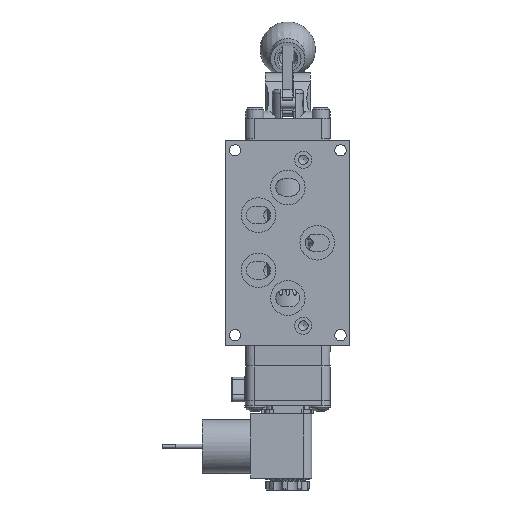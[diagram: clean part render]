
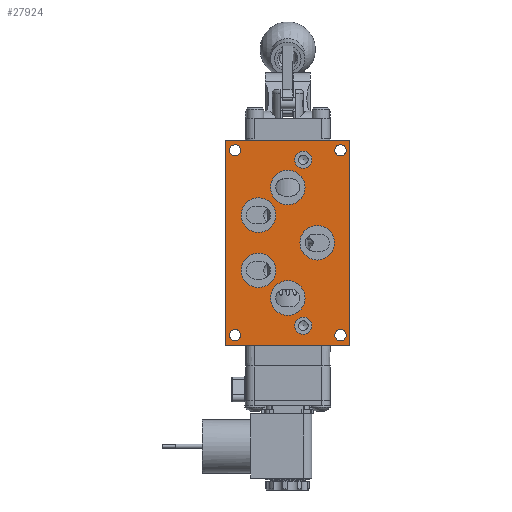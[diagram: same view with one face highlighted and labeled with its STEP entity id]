
A CAD part, front view. The second image highlights one B-rep face of the part: STEP entity #27924.
In plain terms, the highlighted planar face has unit normal (0, -1, 0).
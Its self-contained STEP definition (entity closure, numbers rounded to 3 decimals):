
#1037=FACE_BOUND('',#3829,.T.);
#1038=FACE_BOUND('',#3830,.T.);
#1039=FACE_BOUND('',#3831,.T.);
#1040=FACE_BOUND('',#3832,.T.);
#1041=FACE_BOUND('',#3833,.T.);
#1042=FACE_BOUND('',#3834,.T.);
#1043=FACE_BOUND('',#3835,.T.);
#1044=FACE_BOUND('',#3836,.T.);
#1045=FACE_BOUND('',#3837,.T.);
#1046=FACE_BOUND('',#3838,.T.);
#1047=FACE_BOUND('',#3839,.T.);
#1319=PLANE('',#29886);
#2117=FACE_OUTER_BOUND('',#3828,.T.);
#3828=EDGE_LOOP('',(#18595,#18596,#18597,#18598));
#3829=EDGE_LOOP('',(#18599));
#3830=EDGE_LOOP('',(#18600));
#3831=EDGE_LOOP('',(#18601));
#3832=EDGE_LOOP('',(#18602));
#3833=EDGE_LOOP('',(#18603));
#3834=EDGE_LOOP('',(#18604));
#3835=EDGE_LOOP('',(#18605));
#3836=EDGE_LOOP('',(#18606));
#3837=EDGE_LOOP('',(#18607));
#3838=EDGE_LOOP('',(#18608));
#3839=EDGE_LOOP('',(#18609));
#5714=CIRCLE('',#29826,0.396);
#5718=CIRCLE('',#29834,0.396);
#5720=CIRCLE('',#29839,0.794);
#5722=CIRCLE('',#29843,0.794);
#5724=CIRCLE('',#29847,0.794);
#5726=CIRCLE('',#29851,0.794);
#5728=CIRCLE('',#29855,0.794);
#5731=CIRCLE('',#29860,0.258);
#5734=CIRCLE('',#29865,0.258);
#5737=CIRCLE('',#29870,0.258);
#5740=CIRCLE('',#29875,0.258);
#7268=LINE('',#41666,#9192);
#7294=LINE('',#41795,#9218);
#7422=LINE('',#42751,#9346);
#7423=LINE('',#42755,#9347);
#9192=VECTOR('',#33169,1.);
#9218=VECTOR('',#33275,1.);
#9346=VECTOR('',#33891,1.);
#9347=VECTOR('',#33898,1.);
#11133=VERTEX_POINT('',#41662);
#11135=VERTEX_POINT('',#41665);
#11196=VERTEX_POINT('',#41791);
#11198=VERTEX_POINT('',#41794);
#11349=VERTEX_POINT('',#42632);
#11354=VERTEX_POINT('',#42648);
#11356=VERTEX_POINT('',#42657);
#11358=VERTEX_POINT('',#42664);
#11360=VERTEX_POINT('',#42671);
#11362=VERTEX_POINT('',#42678);
#11364=VERTEX_POINT('',#42685);
#11368=VERTEX_POINT('',#42697);
#11372=VERTEX_POINT('',#42709);
#11376=VERTEX_POINT('',#42721);
#11380=VERTEX_POINT('',#42733);
#13792=EDGE_CURVE('',#11135,#11133,#7268,.T.);
#13855=EDGE_CURVE('',#11198,#11196,#7294,.T.);
#14079=EDGE_CURVE('',#11349,#11349,#5714,.T.);
#14086=EDGE_CURVE('',#11354,#11354,#5718,.T.);
#14090=EDGE_CURVE('',#11356,#11356,#5720,.T.);
#14093=EDGE_CURVE('',#11358,#11358,#5722,.T.);
#14096=EDGE_CURVE('',#11360,#11360,#5724,.T.);
#14099=EDGE_CURVE('',#11362,#11362,#5726,.T.);
#14102=EDGE_CURVE('',#11364,#11364,#5728,.T.);
#14109=EDGE_CURVE('',#11368,#11368,#5731,.T.);
#14115=EDGE_CURVE('',#11372,#11372,#5734,.T.);
#14121=EDGE_CURVE('',#11376,#11376,#5737,.T.);
#14127=EDGE_CURVE('',#11380,#11380,#5740,.T.);
#14136=EDGE_CURVE('',#11133,#11198,#7422,.T.);
#14137=EDGE_CURVE('',#11196,#11135,#7423,.T.);
#18595=ORIENTED_EDGE('',*,*,#13792,.T.);
#18596=ORIENTED_EDGE('',*,*,#14136,.T.);
#18597=ORIENTED_EDGE('',*,*,#13855,.T.);
#18598=ORIENTED_EDGE('',*,*,#14137,.T.);
#18599=ORIENTED_EDGE('',*,*,#14079,.T.);
#18600=ORIENTED_EDGE('',*,*,#14086,.T.);
#18601=ORIENTED_EDGE('',*,*,#14090,.T.);
#18602=ORIENTED_EDGE('',*,*,#14093,.T.);
#18603=ORIENTED_EDGE('',*,*,#14096,.T.);
#18604=ORIENTED_EDGE('',*,*,#14099,.T.);
#18605=ORIENTED_EDGE('',*,*,#14102,.T.);
#18606=ORIENTED_EDGE('',*,*,#14109,.T.);
#18607=ORIENTED_EDGE('',*,*,#14115,.T.);
#18608=ORIENTED_EDGE('',*,*,#14121,.T.);
#18609=ORIENTED_EDGE('',*,*,#14127,.T.);
#27924=ADVANCED_FACE('',(#2117,#1037,#1038,#1039,#1040,#1041,#1042,#1043,
#1044,#1045,#1046,#1047),#1319,.T.);
#29826=AXIS2_PLACEMENT_3D('',#42633,#33747,#33748);
#29834=AXIS2_PLACEMENT_3D('',#42649,#33766,#33767);
#29839=AXIS2_PLACEMENT_3D('',#42658,#33778,#33779);
#29843=AXIS2_PLACEMENT_3D('',#42665,#33787,#33788);
#29847=AXIS2_PLACEMENT_3D('',#42672,#33796,#33797);
#29851=AXIS2_PLACEMENT_3D('',#42679,#33805,#33806);
#29855=AXIS2_PLACEMENT_3D('',#42686,#33814,#33815);
#29860=AXIS2_PLACEMENT_3D('',#42699,#33828,#33829);
#29865=AXIS2_PLACEMENT_3D('',#42711,#33841,#33842);
#29870=AXIS2_PLACEMENT_3D('',#42723,#33854,#33855);
#29875=AXIS2_PLACEMENT_3D('',#42735,#33867,#33868);
#29886=AXIS2_PLACEMENT_3D('',#42756,#33899,#33900);
#33169=DIRECTION('',(-1.,0.,0.));
#33275=DIRECTION('',(1.,0.,0.));
#33747=DIRECTION('center_axis',(0.,1.,0.));
#33748=DIRECTION('ref_axis',(1.,0.,0.));
#33766=DIRECTION('center_axis',(0.,1.,0.));
#33767=DIRECTION('ref_axis',(1.,0.,0.));
#33778=DIRECTION('center_axis',(0.,1.,0.));
#33779=DIRECTION('ref_axis',(1.,0.,0.));
#33787=DIRECTION('center_axis',(0.,1.,0.));
#33788=DIRECTION('ref_axis',(1.,0.,0.));
#33796=DIRECTION('center_axis',(0.,1.,0.));
#33797=DIRECTION('ref_axis',(1.,0.,0.));
#33805=DIRECTION('center_axis',(0.,1.,0.));
#33806=DIRECTION('ref_axis',(1.,0.,0.));
#33814=DIRECTION('center_axis',(0.,1.,0.));
#33815=DIRECTION('ref_axis',(1.,0.,0.));
#33828=DIRECTION('center_axis',(0.,1.,0.));
#33829=DIRECTION('ref_axis',(1.,0.,0.));
#33841=DIRECTION('center_axis',(0.,1.,0.));
#33842=DIRECTION('ref_axis',(1.,0.,0.));
#33854=DIRECTION('center_axis',(0.,1.,0.));
#33855=DIRECTION('ref_axis',(1.,0.,0.));
#33867=DIRECTION('center_axis',(0.,1.,0.));
#33868=DIRECTION('ref_axis',(1.,0.,0.));
#33891=DIRECTION('',(0.,0.,-1.));
#33898=DIRECTION('',(0.,0.,1.));
#33899=DIRECTION('center_axis',(0.,-1.,0.));
#33900=DIRECTION('ref_axis',(0.,0.,-1.));
#41662=CARTESIAN_POINT('',(-2.858,-1.636,4.71));
#41665=CARTESIAN_POINT('',(2.858,-1.636,4.71));
#41666=CARTESIAN_POINT('',(-2.858,-1.636,4.71));
#41791=CARTESIAN_POINT('',(2.858,-1.636,-4.71));
#41794=CARTESIAN_POINT('',(-2.858,-1.636,-4.71));
#41795=CARTESIAN_POINT('',(-2.858,-1.636,-4.71));
#42632=CARTESIAN_POINT('',(0.318,-1.636,-3.81));
#42633=CARTESIAN_POINT('Origin',(0.714,-1.636,-3.81));
#42648=CARTESIAN_POINT('',(0.318,-1.636,3.81));
#42649=CARTESIAN_POINT('Origin',(0.714,-1.636,3.81));
#42657=CARTESIAN_POINT('',(0.555,-1.636,0.));
#42658=CARTESIAN_POINT('Origin',(1.349,-1.636,0.));
#42664=CARTESIAN_POINT('',(-0.794,-1.636,-2.54));
#42665=CARTESIAN_POINT('Origin',(0.,-1.636,-2.54));
#42671=CARTESIAN_POINT('',(-0.794,-1.636,2.54));
#42672=CARTESIAN_POINT('Origin',(0.,-1.636,2.54));
#42678=CARTESIAN_POINT('',(-2.142,-1.636,-1.27));
#42679=CARTESIAN_POINT('Origin',(-1.349,-1.636,-1.27));
#42685=CARTESIAN_POINT('',(-2.142,-1.636,1.27));
#42686=CARTESIAN_POINT('Origin',(-1.349,-1.636,1.27));
#42697=CARTESIAN_POINT('',(-2.679,-1.636,4.247));
#42699=CARTESIAN_POINT('Origin',(-2.421,-1.636,4.247));
#42709=CARTESIAN_POINT('',(2.163,-1.636,4.247));
#42711=CARTESIAN_POINT('Origin',(2.421,-1.636,4.247));
#42721=CARTESIAN_POINT('',(2.163,-1.636,-4.247));
#42723=CARTESIAN_POINT('Origin',(2.421,-1.636,-4.247));
#42733=CARTESIAN_POINT('',(-2.679,-1.636,-4.247));
#42735=CARTESIAN_POINT('Origin',(-2.421,-1.636,-4.247));
#42751=CARTESIAN_POINT('',(-2.858,-1.636,0.));
#42755=CARTESIAN_POINT('',(2.858,-1.636,0.));
#42756=CARTESIAN_POINT('Origin',(2.858,-1.636,0.));
